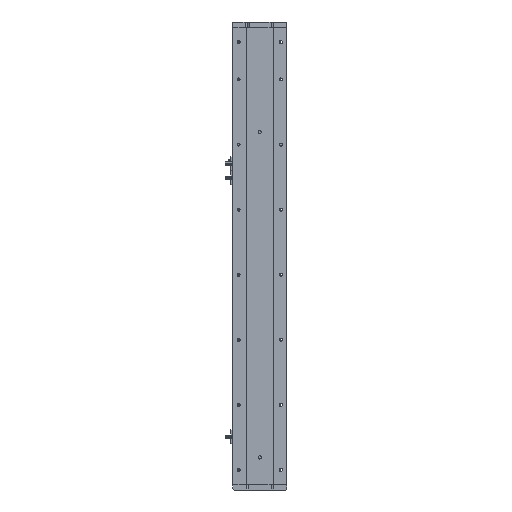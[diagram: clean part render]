
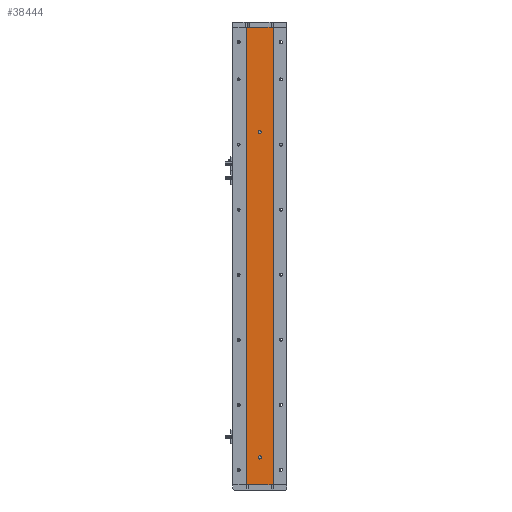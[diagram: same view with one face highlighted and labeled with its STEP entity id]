
A CAD part, left-side view. The second image highlights one B-rep face of the part: STEP entity #38444.
In plain terms, the highlighted planar face has unit normal (-1, 0, 0).
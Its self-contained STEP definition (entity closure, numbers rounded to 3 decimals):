
#1465 = VECTOR ( 'NONE', #36897, 1000. ) ;
#2110 = EDGE_CURVE ( 'NONE', #20331, #20733, #23631, .T. ) ;
#2190 = AXIS2_PLACEMENT_3D ( 'NONE', #14217, #35007, #17237 ) ;
#2467 = DIRECTION ( 'NONE',  ( 0., 0., -1. ) ) ;
#2903 = VECTOR ( 'NONE', #26165, 1000. ) ;
#3451 = ORIENTED_EDGE ( 'NONE', *, *, #21561, .F. ) ;
#3632 = ORIENTED_EDGE ( 'NONE', *, *, #35010, .F. ) ;
#3904 = EDGE_CURVE ( 'NONE', #6418, #19594, #18150, .T. ) ;
#5314 = PLANE ( 'NONE',  #23619 ) ;
#6418 = VERTEX_POINT ( 'NONE', #14900 ) ;
#7635 = CIRCLE ( 'NONE', #17926, 3. ) ;
#7730 = ORIENTED_EDGE ( 'NONE', *, *, #3904, .F. ) ;
#7850 = FACE_BOUND ( 'NONE', #15840, .T. ) ;
#8607 = CARTESIAN_POINT ( 'NONE',  ( -18.926, 24.785, 843. ) ) ;
#9406 = LINE ( 'NONE', #10165, #1465 ) ;
#9475 = DIRECTION ( 'NONE',  ( -1., 0., 0. ) ) ;
#9492 = EDGE_CURVE ( 'NONE', #10556, #22196, #34514, .T. ) ;
#10165 = CARTESIAN_POINT ( 'NONE',  ( -18.926, 24.785, 0. ) ) ;
#10556 = VERTEX_POINT ( 'NONE', #8607 ) ;
#10806 = AXIS2_PLACEMENT_3D ( 'NONE', #14962, #35744, #17998 ) ;
#11368 = LINE ( 'NONE', #23774, #26290 ) ;
#12318 = EDGE_LOOP ( 'NONE', ( #3632, #18504 ) ) ;
#12400 = ORIENTED_EDGE ( 'NONE', *, *, #32658, .F. ) ;
#14012 = CIRCLE ( 'NONE', #2190, 3. ) ;
#14217 = CARTESIAN_POINT ( 'NONE',  ( -18.926, 0., 650. ) ) ;
#14448 = CARTESIAN_POINT ( 'NONE',  ( -18.926, 0., 53. ) ) ;
#14518 = CARTESIAN_POINT ( 'NONE',  ( -18.926, -24.785, 843. ) ) ;
#14900 = CARTESIAN_POINT ( 'NONE',  ( -18.926, -24.785, 843. ) ) ;
#14962 = CARTESIAN_POINT ( 'NONE',  ( -18.926, 0., 50. ) ) ;
#15840 = EDGE_LOOP ( 'NONE', ( #3451, #21277 ) ) ;
#16475 = EDGE_CURVE ( 'NONE', #23970, #27248, #14012, .T. ) ;
#16682 = DIRECTION ( 'NONE',  ( -1., 0., 0. ) ) ;
#17237 = DIRECTION ( 'NONE',  ( 0., 0., 1. ) ) ;
#17394 = ORIENTED_EDGE ( 'NONE', *, *, #9492, .T. ) ;
#17926 = AXIS2_PLACEMENT_3D ( 'NONE', #34492, #16682, #37486 ) ;
#17998 = DIRECTION ( 'NONE',  ( 0., 0., 1. ) ) ;
#18150 = LINE ( 'NONE', #14518, #32984 ) ;
#18504 = ORIENTED_EDGE ( 'NONE', *, *, #2110, .F. ) ;
#19594 = VERTEX_POINT ( 'NONE', #23285 ) ;
#20326 = DIRECTION ( 'NONE',  ( 1., 0., 0. ) ) ;
#20331 = VERTEX_POINT ( 'NONE', #27245 ) ;
#20733 = VERTEX_POINT ( 'NONE', #14448 ) ;
#21277 = ORIENTED_EDGE ( 'NONE', *, *, #16475, .F. ) ;
#21561 = EDGE_CURVE ( 'NONE', #27248, #23970, #7635, .T. ) ;
#22196 = VERTEX_POINT ( 'NONE', #24186 ) ;
#23285 = CARTESIAN_POINT ( 'NONE',  ( -18.926, -24.785, 0. ) ) ;
#23619 = AXIS2_PLACEMENT_3D ( 'NONE', #38076, #20326, #2467 ) ;
#23631 = CIRCLE ( 'NONE', #10806, 3. ) ;
#23652 = ORIENTED_EDGE ( 'NONE', *, *, #29739, .T. ) ;
#23708 = FACE_OUTER_BOUND ( 'NONE', #29059, .T. ) ;
#23774 = CARTESIAN_POINT ( 'NONE',  ( -18.926, 24.785, 843. ) ) ;
#23970 = VERTEX_POINT ( 'NONE', #26120 ) ;
#24186 = CARTESIAN_POINT ( 'NONE',  ( -18.926, 24.785, 0. ) ) ;
#26120 = CARTESIAN_POINT ( 'NONE',  ( -18.926, 0., 647. ) ) ;
#26165 = DIRECTION ( 'NONE',  ( 0., 0., -1. ) ) ;
#26290 = VECTOR ( 'NONE', #26752, 1000. ) ;
#26752 = DIRECTION ( 'NONE',  ( 0., -1., 0. ) ) ;
#26971 = CIRCLE ( 'NONE', #27118, 3. ) ;
#27118 = AXIS2_PLACEMENT_3D ( 'NONE', #27324, #9475, #30269 ) ;
#27245 = CARTESIAN_POINT ( 'NONE',  ( -18.926, 0., 47. ) ) ;
#27248 = VERTEX_POINT ( 'NONE', #32983 ) ;
#27324 = CARTESIAN_POINT ( 'NONE',  ( -18.926, 0., 50. ) ) ;
#29059 = EDGE_LOOP ( 'NONE', ( #23652, #7730, #12400, #17394 ) ) ;
#29362 = DIRECTION ( 'NONE',  ( 0., 0., -1. ) ) ;
#29739 = EDGE_CURVE ( 'NONE', #22196, #19594, #9406, .T. ) ;
#30269 = DIRECTION ( 'NONE',  ( 0., 0., 1. ) ) ;
#31550 = FACE_BOUND ( 'NONE', #12318, .T. ) ;
#32658 = EDGE_CURVE ( 'NONE', #10556, #6418, #11368, .T. ) ;
#32983 = CARTESIAN_POINT ( 'NONE',  ( -18.926, 0., 653. ) ) ;
#32984 = VECTOR ( 'NONE', #29362, 1000. ) ;
#34492 = CARTESIAN_POINT ( 'NONE',  ( -18.926, 0., 650. ) ) ;
#34514 = LINE ( 'NONE', #38074, #2903 ) ;
#35007 = DIRECTION ( 'NONE',  ( -1., 0., 0. ) ) ;
#35010 = EDGE_CURVE ( 'NONE', #20733, #20331, #26971, .T. ) ;
#35744 = DIRECTION ( 'NONE',  ( -1., 0., 0. ) ) ;
#36897 = DIRECTION ( 'NONE',  ( 0., -1., 0. ) ) ;
#37486 = DIRECTION ( 'NONE',  ( 0., 0., 1. ) ) ;
#38074 = CARTESIAN_POINT ( 'NONE',  ( -18.926, 24.785, 843. ) ) ;
#38076 = CARTESIAN_POINT ( 'NONE',  ( -18.926, 24.785, 843. ) ) ;
#38444 = ADVANCED_FACE ( 'NONE', ( #7850, #31550, #23708 ), #5314, .F. ) ;
